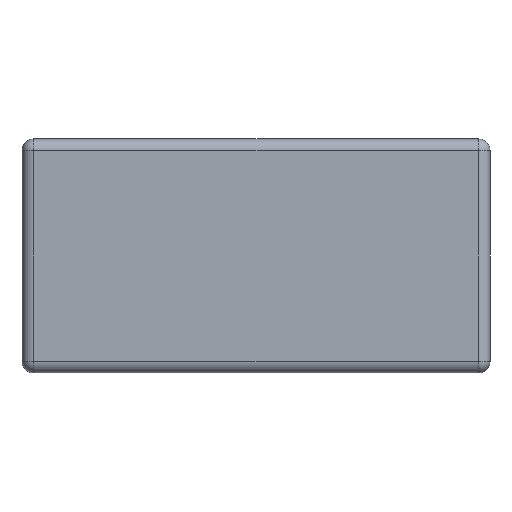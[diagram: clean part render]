
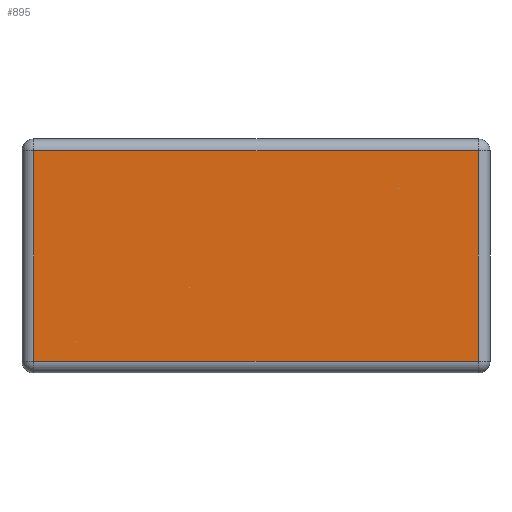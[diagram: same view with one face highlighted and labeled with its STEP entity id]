
A CAD part, front view. The second image highlights one B-rep face of the part: STEP entity #895.
In plain terms, the highlighted planar face has unit normal (0, -1, 0).
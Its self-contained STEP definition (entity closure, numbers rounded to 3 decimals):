
#1 = DIRECTION ( 'NONE',  ( 0., 0., -1. ) ) ;
#26 = ORIENTED_EDGE ( 'NONE', *, *, #996, .T. ) ;
#55 = DIRECTION ( 'NONE',  ( 0., 0., 1. ) ) ;
#85 = DIRECTION ( 'NONE',  ( -1., 0., 0. ) ) ;
#152 = VECTOR ( 'NONE', #55, 1000. ) ;
#272 = DIRECTION ( 'NONE',  ( 0., 0., 1. ) ) ;
#278 = VECTOR ( 'NONE', #85, 1000. ) ;
#283 = CARTESIAN_POINT ( 'NONE',  ( -26.552, 0., 25.812 ) ) ;
#290 = EDGE_CURVE ( 'NONE', #789, #520, #981, .T. ) ;
#306 = ORIENTED_EDGE ( 'NONE', *, *, #601, .T. ) ;
#437 = VECTOR ( 'NONE', #1, 1000. ) ;
#474 = DIRECTION ( 'NONE',  ( 1., 0., 0. ) ) ;
#481 = VECTOR ( 'NONE', #474, 1000. ) ;
#488 = ORIENTED_EDGE ( 'NONE', *, *, #290, .T. ) ;
#520 = VERTEX_POINT ( 'NONE', #837 ) ;
#583 = CARTESIAN_POINT ( 'NONE',  ( -26.552, 0., 0. ) ) ;
#601 = EDGE_CURVE ( 'NONE', #1045, #825, #786, .T. ) ;
#725 = CARTESIAN_POINT ( 'NONE',  ( 49.448, 0., 25.812 ) ) ;
#744 = PLANE ( 'NONE',  #876 ) ;
#786 = LINE ( 'NONE', #855, #278 ) ;
#789 = VERTEX_POINT ( 'NONE', #843 ) ;
#802 = EDGE_LOOP ( 'NONE', ( #845, #306, #26, #488 ) ) ;
#825 = VERTEX_POINT ( 'NONE', #283 ) ;
#837 = CARTESIAN_POINT ( 'NONE',  ( 49.448, 0., -10.188 ) ) ;
#843 = CARTESIAN_POINT ( 'NONE',  ( -26.552, 0., -10.188 ) ) ;
#845 = ORIENTED_EDGE ( 'NONE', *, *, #1021, .T. ) ;
#846 = DIRECTION ( 'NONE',  ( 0., 1., 0. ) ) ;
#855 = CARTESIAN_POINT ( 'NONE',  ( 0., 0., 25.812 ) ) ;
#876 = AXIS2_PLACEMENT_3D ( 'NONE', #1222, #846, #272 ) ;
#895 = ADVANCED_FACE ( 'NONE', ( #1098 ), #744, .F. ) ;
#917 = LINE ( 'NONE', #1140, #152 ) ;
#957 = CARTESIAN_POINT ( 'NONE',  ( 0., 0., -10.188 ) ) ;
#981 = LINE ( 'NONE', #957, #481 ) ;
#996 = EDGE_CURVE ( 'NONE', #825, #789, #1166, .T. ) ;
#1021 = EDGE_CURVE ( 'NONE', #520, #1045, #917, .T. ) ;
#1045 = VERTEX_POINT ( 'NONE', #725 ) ;
#1098 = FACE_OUTER_BOUND ( 'NONE', #802, .T. ) ;
#1140 = CARTESIAN_POINT ( 'NONE',  ( 49.448, 0., 0. ) ) ;
#1166 = LINE ( 'NONE', #583, #437 ) ;
#1222 = CARTESIAN_POINT ( 'NONE',  ( 0., 0., 0. ) ) ;
